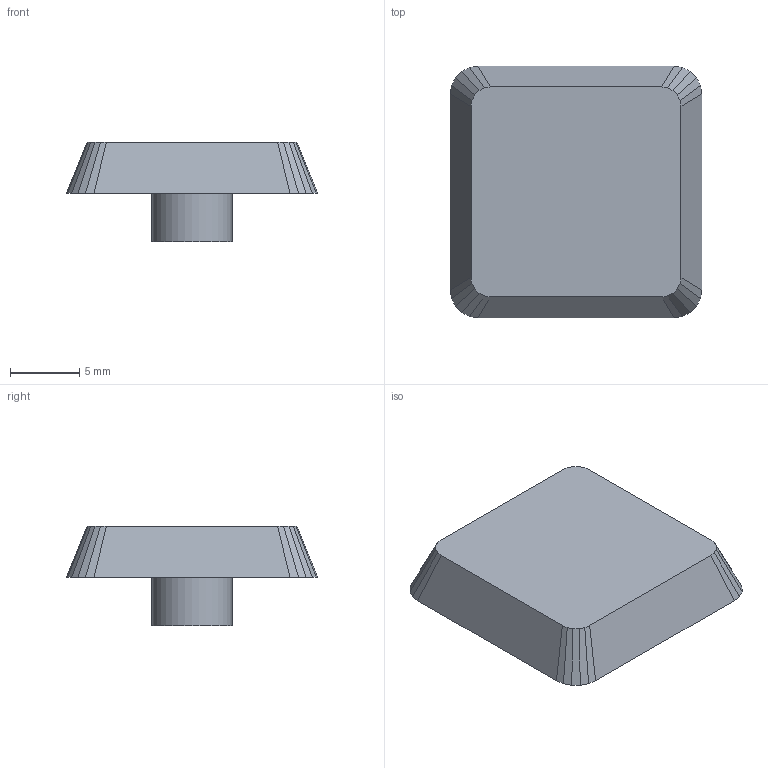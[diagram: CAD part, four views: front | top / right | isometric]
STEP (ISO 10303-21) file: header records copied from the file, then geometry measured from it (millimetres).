
FILE_DESCRIPTION(('Open CASCADE Model'),'2;1');
FILE_NAME('Open CASCADE Shape Model','2026-09-30T21:50:23',('Author'),( 'Open CASCADE'),'Open CASCADE STEP processor 7.9','Open CASCADE 7.9' ,'Unknown');
FILE_SCHEMA(('AUTOMOTIVE_DESIGN { 1 0 10303 214 1 1 1 1 }'));
Length unit declared in the file: millimetre
Products named in the file (1): Open CASCADE STEP translator 7.9 3
Bounding box: 18.2 x 18.2 x 7.2 mm (x, y, z)
Volume: 640.1 mm3; surface area: 1087.9 mm2
Topology: 1 solids, 1 shells, 66 faces, 183 edges, 122 vertices
Faces by surface type: bspline 48, plane 17, cylinder 1
Full cylindrical faces by diameter (mm): 5.8 x1
Entity records: 4258 total; most frequent: CARTESIAN_POINT 1082, DIRECTION 389, ORIENTED_EDGE 366, PCURVE 366, DEFINITIONAL_REPRESENTATION 366, LINE 345, VECTOR 345, B_SPLINE_CURVE_WITH_KNOTS 200
